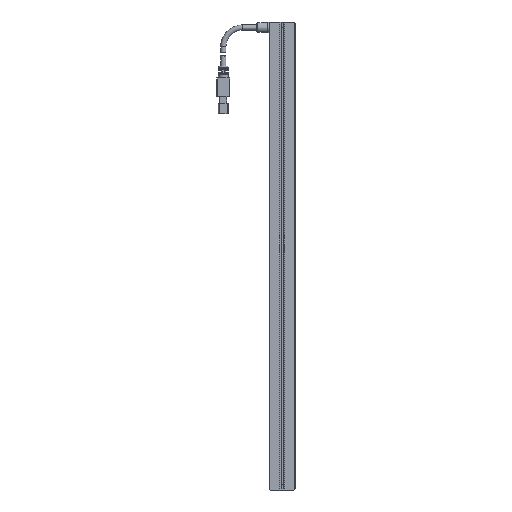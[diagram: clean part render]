
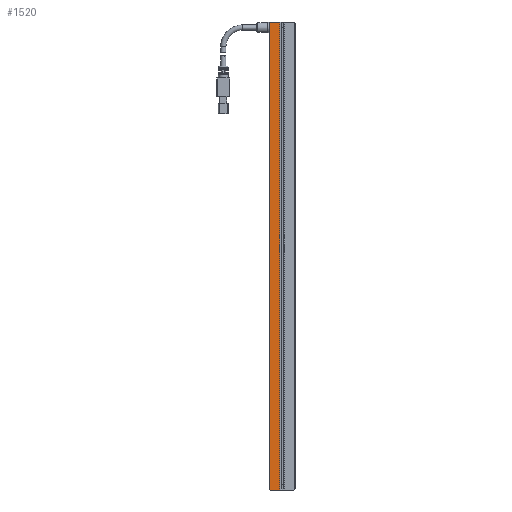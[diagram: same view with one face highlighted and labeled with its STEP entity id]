
A CAD part, front view. The second image highlights one B-rep face of the part: STEP entity #1520.
In plain terms, the highlighted planar face has unit normal (0, -1, 0).
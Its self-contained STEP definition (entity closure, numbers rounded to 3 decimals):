
#415 = CARTESIAN_POINT ( 'NONE',  ( -4.5, 0., 185.5 ) ) ;
#1036 = ORIENTED_EDGE ( 'NONE', *, *, #12505, .T. ) ;
#1055 = LINE ( 'NONE', #11060, #15718 ) ;
#1520 = ADVANCED_FACE ( 'NONE', ( #6818 ), #1965, .T. ) ;
#1965 = PLANE ( 'NONE',  #7170 ) ;
#2487 = DIRECTION ( 'NONE',  ( -1., 0., 0. ) ) ;
#2546 = ORIENTED_EDGE ( 'NONE', *, *, #7892, .F. ) ;
#2903 = VERTEX_POINT ( 'NONE', #16204 ) ;
#3000 = VECTOR ( 'NONE', #9668, 1000. ) ;
#3223 = DIRECTION ( 'NONE',  ( -0.707, 0., -0.707 ) ) ;
#3343 = DIRECTION ( 'NONE',  ( 1., 0., 0. ) ) ;
#3563 = EDGE_CURVE ( 'NONE', #2903, #4327, #3989, .T. ) ;
#3642 = VECTOR ( 'NONE', #2487, 1000. ) ;
#3989 = LINE ( 'NONE', #11114, #16515 ) ;
#4327 = VERTEX_POINT ( 'NONE', #5011 ) ;
#4494 = VERTEX_POINT ( 'NONE', #16266 ) ;
#4652 = CARTESIAN_POINT ( 'NONE',  ( 0., 0., 181. ) ) ;
#5011 = CARTESIAN_POINT ( 'NONE',  ( -9., 0., 181. ) ) ;
#5693 = CARTESIAN_POINT ( 'NONE',  ( -9.5, 0., 181. ) ) ;
#5870 = DIRECTION ( 'NONE',  ( -1., 0., 0. ) ) ;
#6159 = ORIENTED_EDGE ( 'NONE', *, *, #10982, .T. ) ;
#6210 = ORIENTED_EDGE ( 'NONE', *, *, #7773, .T. ) ;
#6431 = ORIENTED_EDGE ( 'NONE', *, *, #8065, .F. ) ;
#6583 = LINE ( 'NONE', #5693, #3000 ) ;
#6818 = FACE_OUTER_BOUND ( 'NONE', #17145, .T. ) ;
#6921 = ORIENTED_EDGE ( 'NONE', *, *, #3563, .T. ) ;
#7170 = AXIS2_PLACEMENT_3D ( 'NONE', #4652, #11489, #3343 ) ;
#7773 = EDGE_CURVE ( 'NONE', #4327, #11619, #11722, .T. ) ;
#7892 = EDGE_CURVE ( 'NONE', #4494, #12753, #12569, .T. ) ;
#8065 = EDGE_CURVE ( 'NONE', #2903, #4494, #1055, .T. ) ;
#9112 = LINE ( 'NONE', #14763, #15913 ) ;
#9366 = VECTOR ( 'NONE', #3223, 1000. ) ;
#9661 = VERTEX_POINT ( 'NONE', #15170 ) ;
#9668 = DIRECTION ( 'NONE',  ( 0., 0., -1. ) ) ;
#10982 = EDGE_CURVE ( 'NONE', #11619, #9661, #6583, .T. ) ;
#11060 = CARTESIAN_POINT ( 'NONE',  ( -1.75, 0., 181. ) ) ;
#11114 = CARTESIAN_POINT ( 'NONE',  ( 0., 0., 181. ) ) ;
#11489 = DIRECTION ( 'NONE',  ( 0., -1., 0. ) ) ;
#11619 = VERTEX_POINT ( 'NONE', #16583 ) ;
#11722 = LINE ( 'NONE', #415, #9366 ) ;
#12505 = EDGE_CURVE ( 'NONE', #9661, #12753, #9112, .T. ) ;
#12569 = LINE ( 'NONE', #17192, #3642 ) ;
#12753 = VERTEX_POINT ( 'NONE', #15604 ) ;
#14763 = CARTESIAN_POINT ( 'NONE',  ( -185.5, 0., -4.5 ) ) ;
#15170 = CARTESIAN_POINT ( 'NONE',  ( -9.5, 0., -180.5 ) ) ;
#15604 = CARTESIAN_POINT ( 'NONE',  ( -9., 0., -181. ) ) ;
#15718 = VECTOR ( 'NONE', #16372, 1000. ) ;
#15913 = VECTOR ( 'NONE', #17307, 1000. ) ;
#16204 = CARTESIAN_POINT ( 'NONE',  ( -1.75, 0., 181. ) ) ;
#16266 = CARTESIAN_POINT ( 'NONE',  ( -1.75, 0., -181. ) ) ;
#16372 = DIRECTION ( 'NONE',  ( 0., 0., -1. ) ) ;
#16515 = VECTOR ( 'NONE', #5870, 1000. ) ;
#16583 = CARTESIAN_POINT ( 'NONE',  ( -9.5, 0., 180.5 ) ) ;
#17145 = EDGE_LOOP ( 'NONE', ( #6921, #6210, #6159, #1036, #2546, #6431 ) ) ;
#17192 = CARTESIAN_POINT ( 'NONE',  ( 0., 0., -181. ) ) ;
#17307 = DIRECTION ( 'NONE',  ( 0.707, 0., -0.707 ) ) ;
